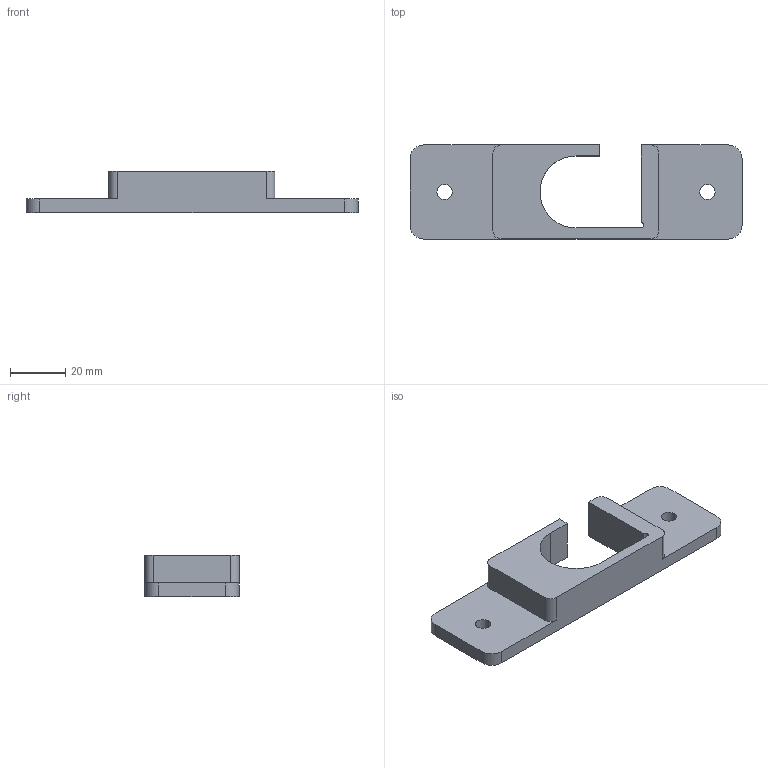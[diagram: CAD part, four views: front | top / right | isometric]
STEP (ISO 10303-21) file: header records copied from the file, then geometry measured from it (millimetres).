
FILE_DESCRIPTION(('CATIA V5 STEP Exchange'),'2;1');
FILE_NAME('D:\姚明阳\AGZ015\AGZ015.04_V1.stp','2022-02-07T06:30:38+00:00',('none'),('none'),'CATIA Version 5 Release 21 GA (IN-10)','CATIA V5 STEP AP214','none');
FILE_SCHEMA(('AUTOMOTIVE_DESIGN { 1 0 10303 214 1 1 1 1 }'));
Length unit declared in the file: millimetre
Products named in the file (1): AGZ015.04_V1
Bounding box: 120 x 34 x 15 mm (x, y, z)
Volume: 26307.3 mm3; surface area: 11039.1 mm2
Topology: 1 solids, 1 shells, 30 faces, 84 edges, 56 vertices
Faces by surface type: cylinder 15, plane 15
Entity records: 953 total; most frequent: ORIENTED_EDGE 168, CARTESIAN_POINT 166, DIRECTION 134, EDGE_CURVE 84, AXIS2_PLACEMENT_3D 56, VERTEX_POINT 56, VECTOR 54, LINE 54
